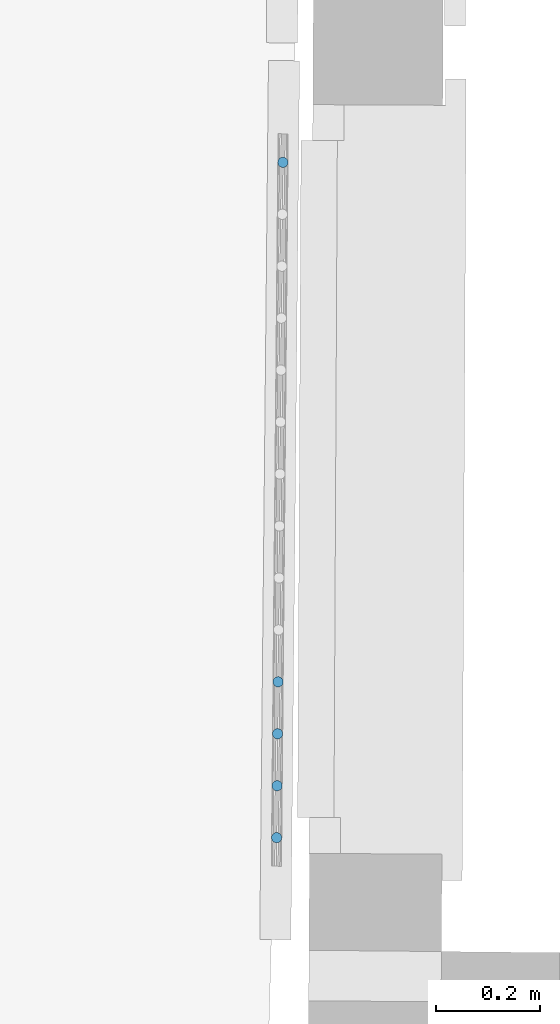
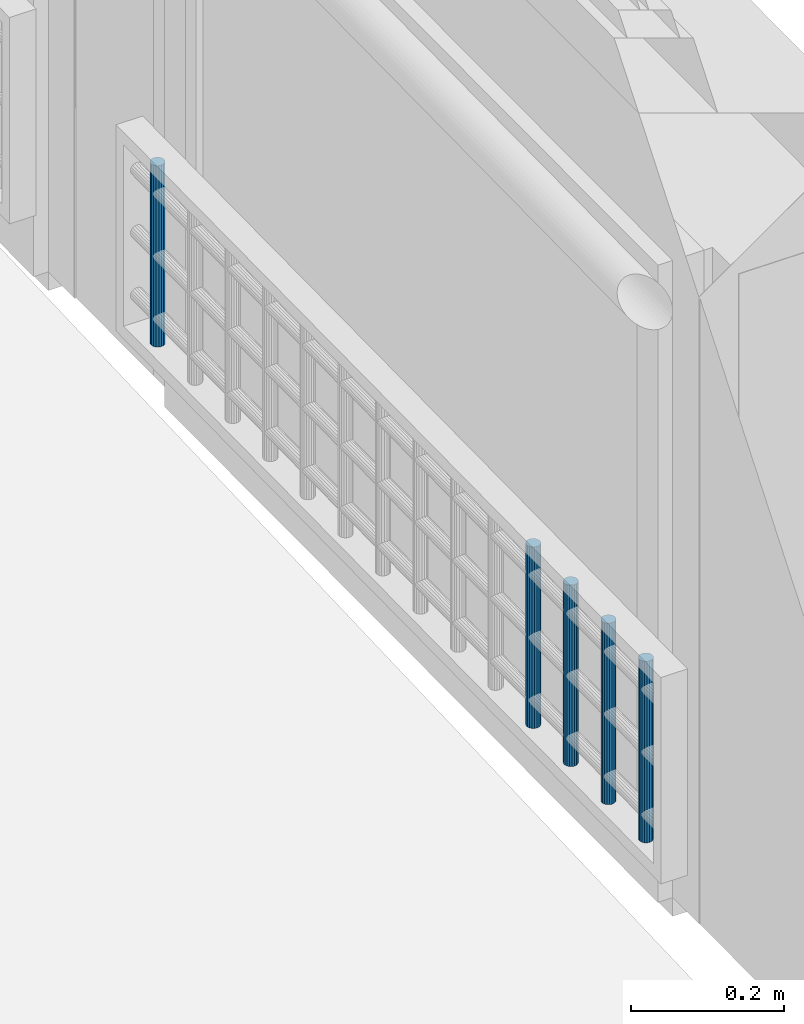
# One storey, part 33 of 97: 5 members, 1 element without a shape of its own.
"""IFC2X3 building model written with IfcOpenShell, lengths in centimetres."""

from ifc_helpers import new_model, entity, si_unit, converted_unit, direction, frame, origin, origin_with_axes, place, context, subcontext, project, spatial, faceted_brep, material, type_object, element, aggregate, save


model = new_model("IFC2X3")

# Units and contexts
model_context = context("Model", 3, precision=0.0001, world=origin(), true_north=direction((0.225632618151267, 0.974212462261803, 0.0)))
body_context = subcontext(model_context, "Body", "Model", "MODEL_VIEW")
ifc_project = project(units=[si_unit("LENGTHUNIT", "METRE", prefix="CENTI"), si_unit("AREAUNIT", "SQUARE_METRE", prefix="CENTI"), si_unit("VOLUMEUNIT", "CUBIC_METRE", prefix="CENTI"), converted_unit("PLANEANGLEUNIT", "DEGREE", entity("IfcRatioMeasure", 0.0174532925), si_unit("PLANEANGLEUNIT", "RADIAN"), dimensions=[0, 0, 0, 0, 0, 0, 0])], contexts=[model_context])

# Site, building, storey
site_placement = place(None, origin_with_axes())
site = spatial("IfcSite", under=ifc_project, at=site_placement, Name="Default Site", CompositionType="ELEMENT")
building_placement = place(site_placement, origin_with_axes())
building = spatial("IfcBuilding", under=site, at=building_placement, Name="Default Building", CompositionType="ELEMENT")
storey_placement = place(building_placement, origin_with_axes())
storey = spatial("IfcBuildingStorey", under=building, at=storey_placement, Name="Rez-de-chaussée", CompositionType="ELEMENT", Elevation=0.0)

# Assembly, members
building_element_proxy_type = type_object("IfcBuildingElementProxyType", Name="Type Object", PredefinedType="NOTDEFINED")
assembly_placement = place(storey_placement, frame((1065.74726462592, -36.1039081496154, 11.9999999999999), z_axis=(0.0, 0.0, 1.0), x_axis=(-0.00922380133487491, -0.999957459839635, 0.0)))
assembly = element("IfcElementAssembly", 1, at=assembly_placement, inside=storey, type_object=building_element_proxy_type, Name="Panneau 1702030", ObjectType="Precast panel", PredefinedType="USERDEFINED")
ifc_material = material(Name="Aluminium satiné")
member_1_placement = place(assembly_placement, frame((8.43969285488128, 0.342020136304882, 31.0000002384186), z_axis=(0.0, 0.0, 1.0), x_axis=(0.500000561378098, -0.866025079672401, 0.0)))
member_1 = element("IfcMember", 2, at=member_1_placement, material=ifc_material, Name="4294967111", context=body_context, shape_type="Brep", body=[
    faceted_brep([(3.88578058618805e-14, 1.38777878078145e-15, 0.0), (-0.347296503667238, -4.02455846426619e-14, 0.0), (-0.673648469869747, -0.118782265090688, 0.0), (-0.939693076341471, -0.342019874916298, 0.0), (-1.11334134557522, -0.642787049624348, 0.0), (-1.1736489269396, -0.984807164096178, 0.0), (-1.11334184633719, -1.32682746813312, 0.0), (-0.939693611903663, -1.62759464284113, 0.0), (-0.673649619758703, -1.85083312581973, 0.0), (-0.347297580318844, -1.96961516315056, 0.0), (-1.44918101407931e-06, -1.96961580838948, 0.0), (0.326350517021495, -1.85083354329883, 0.0), (0.592395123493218, -1.62759593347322, 0.0), (0.766043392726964, -1.32682875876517, 0.0), (0.826350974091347, -0.984808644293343, 0.0), (0.766043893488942, -0.642788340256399, 0.0), (0.592396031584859, -0.342020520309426, 0.0), (0.326351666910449, -0.118782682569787, 0.0), (0.326351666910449, -0.118782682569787, -29.0000002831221), (0.592396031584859, -0.342020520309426, -29.0000002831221), (0.766043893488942, -0.642788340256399, -29.0000002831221), (0.826350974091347, -0.984808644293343, -29.0000002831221), (0.766043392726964, -1.32682875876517, -29.0000002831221), (0.592395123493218, -1.62759593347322, -29.0000002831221), (0.326350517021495, -1.85083354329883, -29.0000002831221), (-1.44918101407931e-06, -1.96961580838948, -29.0000002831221), (-0.347297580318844, -1.96961516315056, -29.0000002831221), (-0.673649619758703, -1.85083312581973, -29.0000002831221), (-0.939693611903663, -1.62759464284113, -29.0000002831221), (-1.11334184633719, -1.32682746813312, -29.0000002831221), (-1.1736489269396, -0.984807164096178, -29.0000002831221), (-1.11334134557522, -0.642787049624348, -29.0000002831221), (-0.939693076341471, -0.342019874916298, -29.0000002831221), (-0.673648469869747, -0.118782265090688, -29.0000002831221), (-0.347296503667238, -4.02455846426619e-14, -29.0000002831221), (3.88578058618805e-14, 1.38777878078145e-15, -29.0000002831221), (0.592395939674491, -0.342020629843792, 6.73861094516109e-24), (0.59239593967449, -0.342020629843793, -29.0000002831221), (0.326351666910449, -0.118782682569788, -29.0000002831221), (0.766044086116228, -0.642788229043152, -9.21806769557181e-24), (0.766044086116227, -0.642788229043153, -29.0000002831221), (0.592396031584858, -0.342020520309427, -29.0000002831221), (0.82635107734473, -0.984808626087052, -6.45019047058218e-24), (0.826351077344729, -0.984808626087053, -29.0000002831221), (0.76604389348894, -0.6427883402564, -29.0000002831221), (0.766043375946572, -1.32682875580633, 5.57769339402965e-25), (0.766043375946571, -1.32682875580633, -29.0000002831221), (0.826350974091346, -0.984808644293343, -29.0000002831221), (0.32635052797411, -1.85083355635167, 5.57769322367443e-25), (0.326350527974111, -1.85083355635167, -29.0000002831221), (0.592395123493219, -1.62759593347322, -29.0000002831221), (-1.4850404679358e-06, -1.96961570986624, -3.22509523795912e-24), (-1.48504046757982e-06, -1.96961570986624, -29.0000002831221), (-0.347297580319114, -1.96961558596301, 3.50453704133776e-23), (-0.347297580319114, -1.96961558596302, -29.0000002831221), (-1.44918101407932e-06, -1.96961580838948, -29.0000002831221), (-0.673649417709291, -1.85083257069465, -5.56812335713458e-23), (-0.673649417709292, -1.85083257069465, -29.0000002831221), (-0.93969399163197, -1.6275950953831, 5.56812335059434e-23), (-0.939693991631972, -1.62759509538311, -29.0000002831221), (-0.673649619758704, -1.85083312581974, -29.0000002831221), (-1.11334148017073, -1.32682725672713, -1.75226851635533e-23), (-1.11334148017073, -1.32682725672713, -29.0000002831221), (-0.939693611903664, -1.62759464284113, -29.0000002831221), (-1.17364903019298, -0.984807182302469, 6.45019045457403e-24), (-1.17364903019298, -0.98480718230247, -29.0000002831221), (-1.1133418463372, -1.32682746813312, -29.0000002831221), (-1.11334132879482, -0.642787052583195, -2.7888467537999e-25), (-1.11334132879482, -0.642787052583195, -29.0000002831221), (-0.673648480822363, -0.118782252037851, -2.78884664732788e-25), (-0.673648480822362, -0.118782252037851, -29.0000002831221), (-0.347296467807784, -9.85232853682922e-08, 3.22509522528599e-24), (-0.347296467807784, -9.85232862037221e-08, -29.0000002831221), (-1.03595827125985e-13, -2.22426745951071e-07, 9.21806773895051e-24), (-1.03595827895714e-13, -2.22426747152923e-07, -29.0000002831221), (-0.347296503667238, -4.14474363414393e-14, -29.0000002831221), (0.326351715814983, -0.118782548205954, -1.34772219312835e-23), (0.326351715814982, -0.118782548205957, -29.0000002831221), (3.79229295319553e-14, -1.18076768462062e-15, -29.0000002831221)], [[[0, 1, 2, 3, 4, 5, 6, 7, 8, 9, 10, 11, 12, 13, 14, 15, 16, 17]], [[18, 19, 20, 21, 22, 23, 24, 25, 26, 27, 28, 29, 30, 31, 32, 33, 34, 35]], [[17, 36, 37, 38]], [[16, 39, 40, 41]], [[15, 42, 43, 44]], [[14, 45, 46, 47]], [[13, 12, 23, 22]], [[12, 48, 49, 50]], [[11, 51, 52, 24]], [[10, 53, 54, 55]], [[9, 56, 57, 26]], [[8, 58, 59, 60]], [[7, 61, 62, 63]], [[6, 64, 65, 66]], [[5, 67, 68, 30]], [[4, 3, 32, 31]], [[3, 69, 70, 32]], [[2, 71, 72, 33]], [[1, 73, 74, 75]], [[0, 76, 77, 78]]]),
])
member_2_placement = place(assembly_placement, frame((108.439695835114, 0.342020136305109, 31.0000002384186), z_axis=(0.0, 0.0, 1.0), x_axis=(0.500008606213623, -0.86602043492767, 0.0)))
member_2 = element("IfcMember", 3, at=member_2_placement, material=ifc_material, Name="4294967101", context=body_context, shape_type="Brep", body=[
    faceted_brep([(-1.11022302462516e-14, -1.33226762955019e-13, 5.55111512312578e-15), (-0.347298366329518, -5.55111512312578e-14, 5.55111512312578e-15), (-0.673648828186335, -0.11877471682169, 5.55111512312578e-15), (-0.939699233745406, -0.342016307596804, 5.55111512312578e-15), (-1.11334843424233, -0.642778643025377, 5.55111512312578e-15), (-1.17365695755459, -0.984794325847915, 5.55111512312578e-15), (-1.11335640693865, -1.3268209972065, 5.55111512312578e-15), (-0.939713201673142, -1.62759365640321, 5.55111512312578e-15), (-0.673665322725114, -1.85082428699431, 5.55111512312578e-15), (-0.347320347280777, -1.96961967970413, 5.55111512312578e-15), (-2.19809512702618e-05, -1.9696196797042, 5.55111512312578e-15), (0.32633444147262, -1.8508346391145, 5.55111512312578e-15), (0.592378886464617, -1.62760337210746, 5.55111512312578e-15), (0.766028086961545, -1.32684103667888, 5.55111512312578e-15), (0.826342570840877, -0.984815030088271, 5.55111512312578e-15), (0.76603605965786, -0.642798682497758, 5.55111512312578e-15), (0.592392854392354, -0.342026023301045, 5.55111512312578e-15), (0.326350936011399, -0.118785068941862, 5.55111512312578e-15), (0.326350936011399, -0.118785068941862, -29.000000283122), (0.592392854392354, -0.342026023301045, -29.000000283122), (0.76603605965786, -0.642798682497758, -29.000000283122), (0.826342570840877, -0.984815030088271, -29.000000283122), (0.766028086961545, -1.32684103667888, -29.000000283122), (0.592378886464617, -1.62760337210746, -29.000000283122), (0.32633444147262, -1.8508346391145, -29.000000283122), (-2.19809512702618e-05, -1.9696196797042, -29.000000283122), (-0.347320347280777, -1.96961967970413, -29.000000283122), (-0.673665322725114, -1.85082428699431, -29.000000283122), (-0.939713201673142, -1.62759365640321, -29.000000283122), (-1.11335640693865, -1.3268209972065, -29.000000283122), (-1.17365695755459, -0.984794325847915, -29.000000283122), (-1.11334843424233, -0.642778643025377, -29.000000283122), (-0.939699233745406, -0.342016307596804, -29.000000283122), (-0.673648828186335, -0.11877471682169, -29.000000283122), (-0.347298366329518, -5.55111512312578e-14, -29.000000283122), (-1.11022302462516e-14, -1.33226762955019e-13, -29.000000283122), (0.59239323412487, -0.342025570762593, 5.55111512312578e-15), (0.59239323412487, -0.342025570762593, -29.000000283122), (0.766039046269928, -0.64279695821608, 5.55111512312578e-15), (0.766039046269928, -0.64279695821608, -29.000000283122), (0.826339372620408, -0.984815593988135, 5.55111512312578e-15), (0.826339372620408, -0.984815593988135, -29.000000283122), (0.766030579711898, -1.32684147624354, 5.55111512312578e-15), (0.766030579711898, -1.32684147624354, -29.000000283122), (0.592378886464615, -1.62760337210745, 5.55111512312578e-15), (0.592378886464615, -1.62760337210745, -29.000000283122), (0.326335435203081, -1.85083582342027, 5.55111512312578e-15), (0.326335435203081, -1.85083582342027, -29.000000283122), (-2.34909538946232e-05, -1.96961553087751, 5.55111512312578e-15), (-2.34909538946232e-05, -1.96961553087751, -29.000000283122), (-0.347320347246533, -1.96961623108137, 5.55111512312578e-15), (-0.347320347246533, -1.96961623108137, -29.000000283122), (-0.673669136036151, -1.8508347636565, 5.55111512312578e-15), (-0.673669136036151, -1.8508347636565, -29.000000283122), (-0.939706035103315, -1.62758511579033, 5.55111512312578e-15), (-0.939706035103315, -1.62758511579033, -29.000000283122), (-1.11335939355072, -1.32682272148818, 5.55111512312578e-15), (-1.11335939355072, -1.32682272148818, -29.000000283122), (-1.17366130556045, -0.984795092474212, 5.55111512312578e-15), (-1.17366130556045, -0.984795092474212, -29.000000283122), (-1.11334691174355, -0.642778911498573, 5.55111512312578e-15), (-1.11334691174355, -0.642778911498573, -29.000000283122), (-0.939699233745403, -0.342016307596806, 5.55111512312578e-15), (-0.939699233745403, -0.342016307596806, -29.000000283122), (-0.673647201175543, -0.118776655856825, 5.55111512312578e-15), (-0.673647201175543, -0.118776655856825, -29.000000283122), (-0.347299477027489, 3.05171211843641e-06, 5.55111512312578e-15), (-0.347299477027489, 3.05171211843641e-06, -29.000000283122), (-3.42554303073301e-11, -3.44862289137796e-06, 5.55111512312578e-15), (-3.42554303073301e-11, -3.44862289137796e-06, -29.000000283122), (0.326350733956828, -0.118785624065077, 5.55111512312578e-15), (0.326350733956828, -0.118785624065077, -29.000000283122)], [[[0, 1, 2, 3, 4, 5, 6, 7, 8, 9, 10, 11, 12, 13, 14, 15, 16, 17]], [[18, 19, 20, 21, 22, 23, 24, 25, 26, 27, 28, 29, 30, 31, 32, 33, 34, 35]], [[17, 36, 37, 18]], [[16, 38, 39, 19]], [[15, 40, 41, 20]], [[14, 42, 43, 21]], [[13, 44, 45, 22]], [[12, 46, 47, 23]], [[11, 48, 49, 24]], [[10, 50, 51, 25]], [[9, 52, 53, 26]], [[8, 54, 55, 27]], [[7, 56, 57, 28]], [[6, 58, 59, 29]], [[5, 60, 61, 30]], [[4, 62, 63, 31]], [[3, 64, 65, 32]], [[2, 66, 67, 33]], [[1, 68, 69, 34]], [[0, 70, 71, 35]]]),
])
member_3_placement = place(assembly_placement, frame((118.439698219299, 0.342020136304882, 31.0000002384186), z_axis=(0.0, 0.0, 1.0), x_axis=(0.500008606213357, -0.866020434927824, 0.0)))
member_3 = element("IfcMember", 4, at=member_3_placement, material=ifc_material, Name="4294967100", context=body_context, shape_type="Brep", body=[
    faceted_brep([(9.99200722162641e-14, 0.0, -5.55111512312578e-15), (-0.347298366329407, -4.44089209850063e-14, -5.55111512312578e-15), (-0.673654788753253, -0.118785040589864, -5.55111512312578e-15), (-0.939699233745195, -0.34201630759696, -5.55111512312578e-15), (-1.11334843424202, -0.642778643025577, -5.55111512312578e-15), (-1.17366291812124, -0.984804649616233, -5.55111512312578e-15), (-1.11335640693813, -1.32682099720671, -5.55111512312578e-15), (-0.939713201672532, -1.62759365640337, -5.55111512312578e-15), (-0.673671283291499, -1.85083461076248, -5.55111512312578e-15), (-0.347320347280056, -1.9696196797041, -5.55111512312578e-15), (-2.19809505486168e-05, -1.96961967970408, -5.55111512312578e-15), (0.326328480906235, -1.85084496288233, -5.55111512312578e-15), (0.592378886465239, -1.62760337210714, -5.55111512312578e-15), (0.766028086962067, -1.32684103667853, -5.55111512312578e-15), (0.826336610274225, -0.984825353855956, -5.55111512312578e-15), (0.766036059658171, -0.642798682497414, -5.55111512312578e-15), (0.592392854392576, -0.342026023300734, -5.55111512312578e-15), (0.326344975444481, -0.118795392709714, -5.55111512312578e-15), (0.326344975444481, -0.118795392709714, -29.0000002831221), (0.592392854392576, -0.342026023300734, -29.0000002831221), (0.766036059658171, -0.642798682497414, -29.0000002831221), (0.826336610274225, -0.984825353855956, -29.0000002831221), (0.766028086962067, -1.32684103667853, -29.0000002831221), (0.592378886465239, -1.62760337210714, -29.0000002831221), (0.326328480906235, -1.85084496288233, -29.0000002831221), (-2.19809505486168e-05, -1.96961967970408, -29.0000002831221), (-0.347320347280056, -1.9696196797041, -29.0000002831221), (-0.673671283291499, -1.85083461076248, -29.0000002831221), (-0.939713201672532, -1.62759365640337, -29.0000002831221), (-1.11335640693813, -1.32682099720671, -29.0000002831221), (-1.17366291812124, -0.984804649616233, -29.0000002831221), (-1.11334843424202, -0.642778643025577, -29.0000002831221), (-0.939699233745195, -0.34201630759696, -29.0000002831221), (-0.673654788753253, -0.118785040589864, -29.0000002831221), (-0.347298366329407, -4.44089209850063e-14, -29.0000002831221), (9.99200722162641e-14, 0.0, -29.0000002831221), (0.592385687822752, -0.342034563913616, -5.55111512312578e-15), (0.592385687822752, -0.342034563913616, -29.0000002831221), (0.76603904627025, -0.64279695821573, -5.55111512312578e-15), (0.76603904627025, -0.64279695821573, -29.0000002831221), (0.826340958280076, -0.984824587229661, -5.55111512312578e-15), (0.826340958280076, -0.984824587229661, -29.0000002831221), (0.766026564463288, -1.32684076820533, -5.55111512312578e-15), (0.766026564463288, -1.32684076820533, -29.0000002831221), (0.592378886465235, -1.62760337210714, -5.55111512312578e-15), (0.592378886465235, -1.62760337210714, -29.0000002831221), (0.326326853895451, -1.8508430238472, -5.55111512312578e-15), (0.326326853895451, -1.8508430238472, -29.0000002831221), (-2.08702525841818e-05, -1.96962273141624, -5.55111512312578e-15), (-2.08702525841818e-05, -1.96962273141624, -29.0000002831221), (-0.347320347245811, -1.96961623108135, -5.55111512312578e-15), (-0.347320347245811, -1.96961623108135, -29.0000002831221), (-0.673671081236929, -1.85083405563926, -5.55111512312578e-15), (-0.673671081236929, -1.85083405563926, -29.0000002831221), (-0.939713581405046, -1.62759410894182, -5.55111512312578e-15), (-0.939713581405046, -1.62759410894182, -29.0000002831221), (-1.1133593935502, -1.32682272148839, -5.55111512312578e-15), (-1.1133593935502, -1.32682272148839, -29.0000002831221), (-1.17365971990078, -0.98480408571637, -5.55111512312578e-15), (-1.17365971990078, -0.98480408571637, -29.0000002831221), (-1.11335092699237, -0.642778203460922, -5.55111512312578e-15), (-1.11335092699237, -0.642778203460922, -29.0000002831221), (-0.939699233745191, -0.342016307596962, -5.55111512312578e-15), (-0.939699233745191, -0.342016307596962, -29.0000002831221), (-0.673655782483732, -0.118783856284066, -5.55111512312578e-15), (-0.673655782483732, -0.118783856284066, -29.0000002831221), (-0.347296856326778, -4.14882675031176e-06, -5.55111512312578e-15), (-0.347296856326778, -4.14882675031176e-06, -29.0000002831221), (-3.41444070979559e-11, -3.44862277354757e-06, -5.55111512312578e-15), (-3.41444070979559e-11, -3.44862277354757e-06, -29.0000002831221), (0.326348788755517, -0.118784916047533, -5.55111512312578e-15), (0.326348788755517, -0.118784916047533, -29.0000002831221)], [[[0, 1, 2, 3, 4, 5, 6, 7, 8, 9, 10, 11, 12, 13, 14, 15, 16, 17]], [[18, 19, 20, 21, 22, 23, 24, 25, 26, 27, 28, 29, 30, 31, 32, 33, 34, 35]], [[17, 36, 37, 18]], [[16, 38, 39, 19]], [[15, 40, 41, 20]], [[14, 42, 43, 21]], [[13, 44, 45, 22]], [[12, 46, 47, 23]], [[11, 48, 49, 24]], [[10, 50, 51, 25]], [[9, 52, 53, 26]], [[8, 54, 55, 27]], [[7, 56, 57, 28]], [[6, 58, 59, 29]], [[5, 60, 61, 30]], [[4, 62, 63, 31]], [[3, 64, 65, 32]], [[2, 66, 67, 33]], [[1, 68, 69, 34]], [[0, 70, 71, 35]]]),
])
member_4_placement = place(assembly_placement, frame((128.439688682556, 0.342020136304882, 31.0000002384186), z_axis=(0.0, 0.0, 1.0), x_axis=(0.499982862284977, -0.866035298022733, 0.0)))
member_4 = element("IfcMember", 5, at=member_4_placement, material=ifc_material, Name="4294967099", context=body_context, shape_type="Brep", body=[
    faceted_brep([(8.88178419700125e-14, 0.0, 0.0), (-0.347292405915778, -4.44089209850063e-14, 0.0), (-0.673645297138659, -0.118794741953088, 0.0), (-0.939683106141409, -0.342033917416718, 0.0), (-1.11332336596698, -0.642801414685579, 0.0), (-1.17362768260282, -0.984829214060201, 0.0), (-1.11331100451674, -1.32684376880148, 0.0), (-0.939658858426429, -1.62761126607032, 0.0), (-0.673610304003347, -1.85084431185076, 0.0), (-0.347255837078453, -1.96961967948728, 0.0), (4.25290975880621e-05, -1.969609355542, 0.0), (0.326389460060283, -1.85082493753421, 0.0), (0.592433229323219, -1.62757543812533, 0.0), (0.766073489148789, -1.32680794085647, 0.0), (0.826371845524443, -0.984790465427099, 0.0), (0.766061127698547, -0.642765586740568, 0.0), (0.592403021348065, -0.342008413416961, 0.0), (0.326354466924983, -0.118775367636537, 0.0), (0.326354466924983, -0.118775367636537, -29.0000002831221), (0.592403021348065, -0.342008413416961, -29.0000002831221), (0.766061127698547, -0.642765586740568, -29.0000002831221), (0.826371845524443, -0.984790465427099, -29.0000002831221), (0.766073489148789, -1.32680794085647, -29.0000002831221), (0.592433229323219, -1.62757543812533, -29.0000002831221), (0.326389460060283, -1.85082493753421, -29.0000002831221), (4.25290975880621e-05, -1.969609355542, -29.0000002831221), (-0.347255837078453, -1.96961967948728, -29.0000002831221), (-0.673610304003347, -1.85084431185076, -29.0000002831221), (-0.939658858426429, -1.62761126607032, -29.0000002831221), (-1.11331100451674, -1.32684376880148, -29.0000002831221), (-1.17362768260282, -0.984829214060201, -29.0000002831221), (-1.11332336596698, -0.642801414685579, -29.0000002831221), (-0.939683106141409, -0.342033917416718, -29.0000002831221), (-0.673645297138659, -0.118794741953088, -29.0000002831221), (-0.347292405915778, -4.44089209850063e-14, -29.0000002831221), (8.88178419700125e-14, 0.0, -29.0000002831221), (0.592403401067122, -0.342007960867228, 0.0), (0.592403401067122, -0.342007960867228, -29.0000002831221), (0.766055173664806, -0.642769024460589, 0.0), (0.766055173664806, -0.642769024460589, -29.0000002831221), (0.826376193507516, -0.984789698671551, 0.0), (0.826376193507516, -0.984789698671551, -29.0000002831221), (0.766071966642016, -1.32680767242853, 0.0), (0.766071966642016, -1.32680767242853, -29.0000002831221), (0.592433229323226, -1.62757543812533, 0.0), (0.592433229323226, -1.62757543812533, -29.0000002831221), (0.326387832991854, -1.85082299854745, 0.0), (0.326387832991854, -1.85082299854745, -29.0000002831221), (4.36398862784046e-05, -1.96961240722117, 0.0), (4.36398862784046e-05, -1.96961240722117, -29.0000002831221), (-0.347255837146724, -1.96961623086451, 0.0), (-0.347255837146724, -1.96961623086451, -29.0000002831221), (-0.673610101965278, -1.85084375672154, 0.0), (-0.673610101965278, -1.85084375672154, -29.0000002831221), (-0.939659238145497, -1.62761171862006, 0.0), (-0.939659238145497, -1.62761171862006, -29.0000002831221), (-1.11331399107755, -1.32684549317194, 0.0), (-1.11331399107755, -1.32684549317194, -29.0000002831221), (-1.17362448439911, -0.984828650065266, 0.0), (-1.17362448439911, -0.984828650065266, -29.0000002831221), (-1.11332585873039, -0.642800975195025, 0.0), (-1.11332585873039, -0.642800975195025, -29.0000002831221), (-0.939683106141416, -0.342033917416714, 0.0), (-0.939683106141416, -0.342033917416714, -29.0000002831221), (-0.673646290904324, -0.118793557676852, 0.0), (-0.673646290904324, -0.118793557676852, -29.0000002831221), (-0.347290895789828, -4.14878183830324e-06, 0.0), (-0.347290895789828, -4.14878183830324e-06, -29.0000002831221), (-1.36016769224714e-10, 6.87520446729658e-06, 0.0), (-1.36016769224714e-10, 6.87520446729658e-06, -29.0000002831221), (0.326354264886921, -0.118775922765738, 0.0), (0.326354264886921, -0.118775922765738, -29.0000002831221)], [[[0, 1, 2, 3, 4, 5, 6, 7, 8, 9, 10, 11, 12, 13, 14, 15, 16, 17]], [[18, 19, 20, 21, 22, 23, 24, 25, 26, 27, 28, 29, 30, 31, 32, 33, 34, 35]], [[17, 36, 37, 18]], [[16, 38, 39, 19]], [[15, 40, 41, 20]], [[14, 42, 43, 21]], [[13, 44, 45, 22]], [[12, 46, 47, 23]], [[11, 48, 49, 24]], [[10, 50, 51, 25]], [[9, 52, 53, 26]], [[8, 54, 55, 27]], [[7, 56, 57, 28]], [[6, 58, 59, 29]], [[5, 60, 61, 30]], [[4, 62, 63, 31]], [[3, 64, 65, 32]], [[2, 66, 67, 33]], [[1, 68, 69, 34]], [[0, 70, 71, 35]]]),
])
member_5_placement = place(assembly_placement, frame((138.439691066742, 0.342020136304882, 31.0000002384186), z_axis=(0.0, 0.0, 1.0), x_axis=(0.500008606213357, -0.866020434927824, 0.0)))
member_5 = element("IfcMember", 6, at=member_5_placement, material=ifc_material, Name="4294967098", context=body_context, shape_type="Brep", body=[
    faceted_brep([(1.22124532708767e-13, 8.88178419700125e-14, -5.55111512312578e-15), (-0.347298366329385, 4.44089209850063e-14, -5.55111512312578e-15), (-0.673648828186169, -0.11877471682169, -5.55111512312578e-15), (-0.939693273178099, -0.342005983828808, -5.55111512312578e-15), (-1.11334843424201, -0.64277864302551, -5.55111512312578e-15), (-1.17365695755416, -0.984794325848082, -5.55111512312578e-15), (-1.11335044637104, -1.32681067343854, -5.55111512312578e-15), (-0.939707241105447, -1.62758333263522, -5.55111512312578e-15), (-0.673665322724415, -1.8508242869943, -5.55111512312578e-15), (-0.347314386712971, -1.96960935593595, -5.55111512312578e-15), (-1.60203834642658e-05, -1.96960935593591, -5.55111512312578e-15), (0.326334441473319, -1.85083463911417, -5.55111512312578e-15), (0.59237888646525, -1.62760337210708, -5.55111512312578e-15), (0.766034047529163, -1.32683071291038, -5.55111512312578e-15), (0.82634257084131, -0.984815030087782, -5.55111512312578e-15), (0.766036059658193, -0.642798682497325, -5.55111512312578e-15), (0.592392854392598, -0.342026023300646, -5.55111512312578e-15), (0.326350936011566, -0.118785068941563, -5.55111512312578e-15), (0.326350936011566, -0.118785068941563, -29.0000002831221), (0.592392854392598, -0.342026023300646, -29.0000002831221), (0.766036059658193, -0.642798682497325, -29.0000002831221), (0.82634257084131, -0.984815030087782, -29.0000002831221), (0.766034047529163, -1.32683071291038, -29.0000002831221), (0.59237888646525, -1.62760337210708, -29.0000002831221), (0.326334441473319, -1.85083463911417, -29.0000002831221), (-1.60203834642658e-05, -1.96960935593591, -29.0000002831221), (-0.347314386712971, -1.96960935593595, -29.0000002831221), (-0.673665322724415, -1.8508242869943, -29.0000002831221), (-0.939707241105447, -1.62758333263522, -29.0000002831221), (-1.11335044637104, -1.32681067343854, -29.0000002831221), (-1.17365695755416, -0.984794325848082, -29.0000002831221), (-1.11334843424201, -0.64277864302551, -29.0000002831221), (-0.939693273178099, -0.342005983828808, -29.0000002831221), (-0.673648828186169, -0.11877471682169, -29.0000002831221), (-0.347298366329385, 4.44089209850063e-14, -29.0000002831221), (1.22124532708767e-13, 8.88178419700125e-14, -29.0000002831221), (0.592393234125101, -0.342025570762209, -5.55111512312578e-15), (0.592393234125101, -0.342025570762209, -29.0000002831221), (0.766039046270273, -0.642796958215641, -5.55111512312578e-15), (0.766039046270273, -0.642796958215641, -29.0000002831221), (0.82633937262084, -0.984815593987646, -5.55111512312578e-15), (0.82633937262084, -0.984815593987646, -29.0000002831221), (0.766032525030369, -1.32683044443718, -5.55111512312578e-15), (0.766032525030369, -1.32683044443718, -29.0000002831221), (0.592378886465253, -1.62760337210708, -5.55111512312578e-15), (0.592378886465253, -1.62760337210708, -29.0000002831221), (0.326335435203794, -1.85083582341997, -5.55111512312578e-15), (0.326335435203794, -1.85083582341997, -29.0000002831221), (-1.49096854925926e-05, -1.96961240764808, -5.55111512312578e-15), (-1.49096854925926e-05, -1.96961240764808, -29.0000002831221), (-0.347314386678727, -1.96960590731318, -5.55111512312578e-15), (-0.347314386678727, -1.96960590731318, -29.0000002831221), (-0.673665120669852, -1.85082373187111, -5.55111512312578e-15), (-0.673665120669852, -1.85082373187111, -29.0000002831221), (-0.939707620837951, -1.62758378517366, -5.55111512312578e-15), (-0.939707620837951, -1.62758378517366, -29.0000002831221), (-1.11335343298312, -1.32681239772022, -5.55111512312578e-15), (-1.11335343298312, -1.32681239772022, -29.0000002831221), (-1.17365375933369, -0.984793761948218, -5.55111512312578e-15), (-1.17365375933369, -0.984793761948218, -29.0000002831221), (-1.11334691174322, -0.642778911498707, -5.55111512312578e-15), (-1.11334691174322, -0.642778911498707, -29.0000002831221), (-0.939693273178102, -0.342005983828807, -5.55111512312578e-15), (-0.939693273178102, -0.342005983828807, -29.0000002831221), (-0.673649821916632, -0.118773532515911, -5.55111512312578e-15), (-0.673649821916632, -0.118773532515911, -29.0000002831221), (-0.347299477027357, 3.05171221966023e-06, -5.55111512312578e-15), (-0.347299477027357, 3.05171221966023e-06, -29.0000002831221), (-3.41222026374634e-11, -3.44862268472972e-06, -5.55111512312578e-15), (-3.41222026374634e-11, -3.44862268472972e-06, -29.0000002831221), (0.326350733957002, -0.118785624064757, -5.55111512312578e-15), (0.326350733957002, -0.118785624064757, -29.0000002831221)], [[[0, 1, 2, 3, 4, 5, 6, 7, 8, 9, 10, 11, 12, 13, 14, 15, 16, 17]], [[18, 19, 20, 21, 22, 23, 24, 25, 26, 27, 28, 29, 30, 31, 32, 33, 34, 35]], [[17, 36, 37, 18]], [[16, 38, 39, 19]], [[15, 40, 41, 20]], [[14, 42, 43, 21]], [[13, 44, 45, 22]], [[12, 46, 47, 23]], [[11, 48, 49, 24]], [[10, 50, 51, 25]], [[9, 52, 53, 26]], [[8, 54, 55, 27]], [[7, 56, 57, 28]], [[6, 58, 59, 29]], [[5, 60, 61, 30]], [[4, 62, 63, 31]], [[3, 64, 65, 32]], [[2, 66, 67, 33]], [[1, 68, 69, 34]], [[0, 70, 71, 35]]]),
])
aggregate(assembly, [member_1, member_2, member_3, member_4, member_5])

save(model, "model.ifc")
